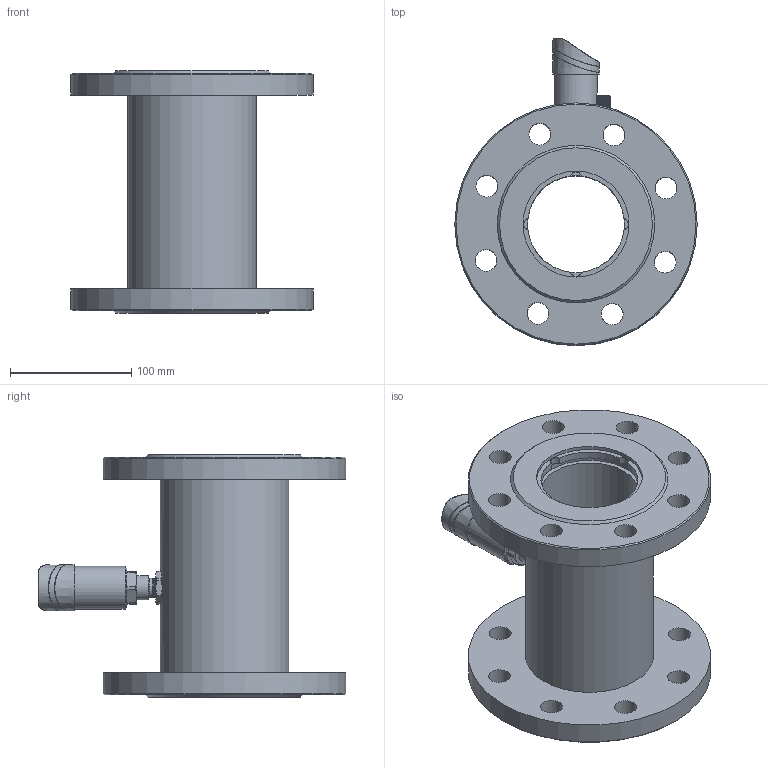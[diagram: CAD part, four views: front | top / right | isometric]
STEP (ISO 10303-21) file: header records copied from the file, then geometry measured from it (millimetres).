
FILE_DESCRIPTION( (''), '2;1');
FILE_NAME( 'QTKE_DN80_flange.step', '2024-10-14T15:06:55+08:00', (''), (''), '', '', '');
FILE_SCHEMA (('AUTOMOTIVE_DESIGN { 1 0 10303 214 3 1 1 1 }'));
Length unit declared in the file: millimetre
Products named in the file (1): QTKE DN80_flange
Bounding box: 200 x 253.5 x 200 mm (x, y, z)
Volume: 1562804.6 mm3; surface area: 263098.3 mm2
Topology: 5 solids, 6 shells, 763 faces, 1992 edges, 1306 vertices
Faces by surface type: plane 279, cylinder 167, extrusion 141, cone 73, bspline 60, torus 32, sphere 11
Full cylindrical faces by diameter (mm): 1.689 x1, 2.7 x3, 12 x1, 15.9 x1, 16.5 x2, 18 x16, 20 x1, 23 x3, 26 x5, 35.5 x1, 37.001 x1, 80 x1, 86 x2, 87.347 x2, 106 x1, 200 x2
Entity records: 33953 total; most frequent: CARTESIAN_POINT 14977, ORIENTED_EDGE 3724, DIRECTION 3063, EDGE_CURVE 1862, VERTEX_POINT 1254, AXIS2_PLACEMENT_3D 1048, VECTOR 967, EDGE_LOOP 944
